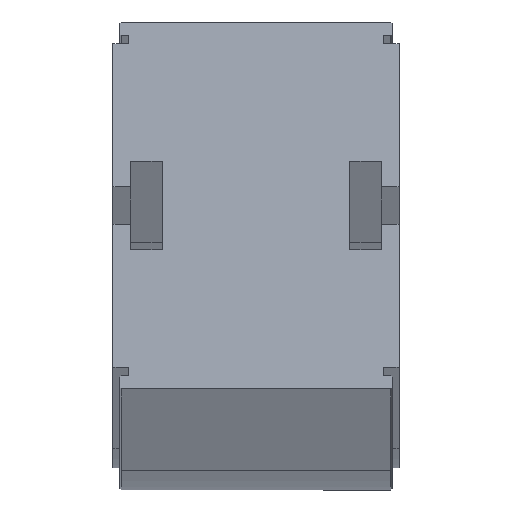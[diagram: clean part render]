
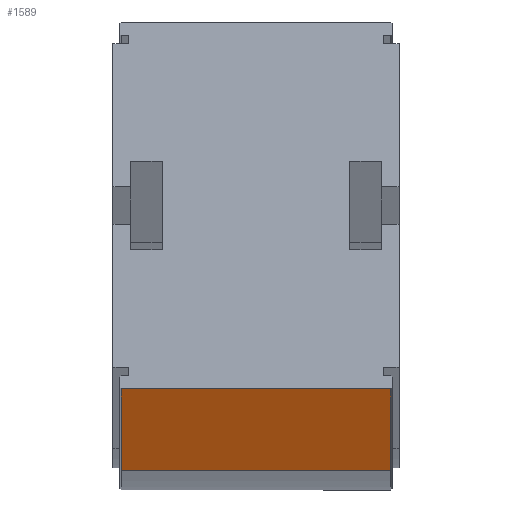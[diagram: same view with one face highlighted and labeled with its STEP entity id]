
A CAD part, top view. The second image highlights one B-rep face of the part: STEP entity #1589.
In plain terms, the highlighted planar face has unit normal (0, -0.993, 0.122).
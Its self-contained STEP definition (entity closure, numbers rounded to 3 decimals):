
#61 = FACE_OUTER_BOUND ( 'NONE', #2292, .T. ) ;
#151 = ORIENTED_EDGE ( 'NONE', *, *, #1859, .T. ) ;
#573 = VECTOR ( 'NONE', #1427, 1000. ) ;
#746 = ORIENTED_EDGE ( 'NONE', *, *, #829, .T. ) ;
#829 = EDGE_CURVE ( 'NONE', #1009, #1113, #1058, .T. ) ;
#948 = VECTOR ( 'NONE', #2344, 1000. ) ;
#1009 = VERTEX_POINT ( 'NONE', #2576 ) ;
#1029 = LINE ( 'NONE', #1263, #2011 ) ;
#1058 = LINE ( 'NONE', #2935, #2676 ) ;
#1081 = VERTEX_POINT ( 'NONE', #2326 ) ;
#1113 = VERTEX_POINT ( 'NONE', #2806 ) ;
#1131 = CARTESIAN_POINT ( 'NONE',  ( 30.65, -37.96, 216.053 ) ) ;
#1263 = CARTESIAN_POINT ( 'NONE',  ( -30.65, -37.96, 216.053 ) ) ;
#1427 = DIRECTION ( 'NONE',  ( -1., 0., 0. ) ) ;
#1589 = ADVANCED_FACE ( 'NONE', ( #61 ), #3039, .F. ) ;
#1601 = CARTESIAN_POINT ( 'NONE',  ( -30.65, -37.96, 216.053 ) ) ;
#1605 = LINE ( 'NONE', #1131, #948 ) ;
#1623 = DIRECTION ( 'NONE',  ( 0., 0.993, -0.122 ) ) ;
#1664 = AXIS2_PLACEMENT_3D ( 'NONE', #1601, #1623, #2301 ) ;
#1676 = CARTESIAN_POINT ( 'NONE',  ( -30.65, -37.96, 216.053 ) ) ;
#1698 = EDGE_CURVE ( 'NONE', #1081, #2478, #2838, .T. ) ;
#1859 = EDGE_CURVE ( 'NONE', #1081, #1009, #1605, .T. ) ;
#1978 = DIRECTION ( 'NONE',  ( -1., 0., 0. ) ) ;
#2011 = VECTOR ( 'NONE', #2949, 1000. ) ;
#2103 = ORIENTED_EDGE ( 'NONE', *, *, #1698, .F. ) ;
#2292 = EDGE_LOOP ( 'NONE', ( #2103, #151, #746, #2976 ) ) ;
#2301 = DIRECTION ( 'NONE',  ( 0., 0.122, 0.993 ) ) ;
#2326 = CARTESIAN_POINT ( 'NONE',  ( 30.65, -37.96, 216.053 ) ) ;
#2344 = DIRECTION ( 'NONE',  ( 0., 0.122, 0.993 ) ) ;
#2478 = VERTEX_POINT ( 'NONE', #2541 ) ;
#2541 = CARTESIAN_POINT ( 'NONE',  ( -30.65, -37.96, 216.053 ) ) ;
#2576 = CARTESIAN_POINT ( 'NONE',  ( 30.65, -19.68, 364.935 ) ) ;
#2676 = VECTOR ( 'NONE', #1978, 1000. ) ;
#2785 = EDGE_CURVE ( 'NONE', #2478, #1113, #1029, .T. ) ;
#2806 = CARTESIAN_POINT ( 'NONE',  ( -30.65, -19.68, 364.935 ) ) ;
#2838 = LINE ( 'NONE', #1676, #573 ) ;
#2935 = CARTESIAN_POINT ( 'NONE',  ( -30.65, -19.68, 364.935 ) ) ;
#2949 = DIRECTION ( 'NONE',  ( 0., 0.122, 0.993 ) ) ;
#2976 = ORIENTED_EDGE ( 'NONE', *, *, #2785, .F. ) ;
#3039 = PLANE ( 'NONE',  #1664 ) ;
